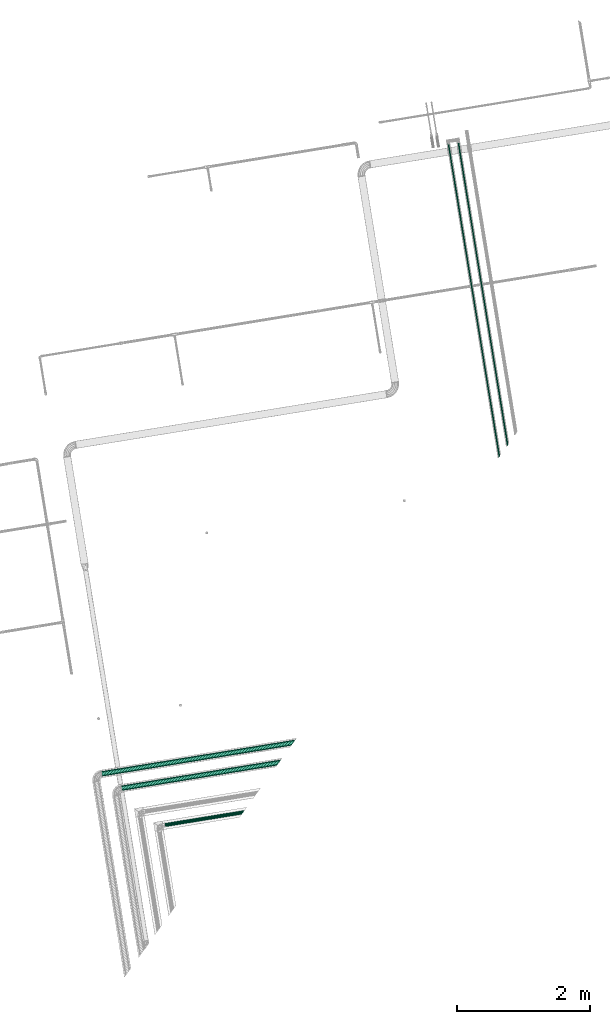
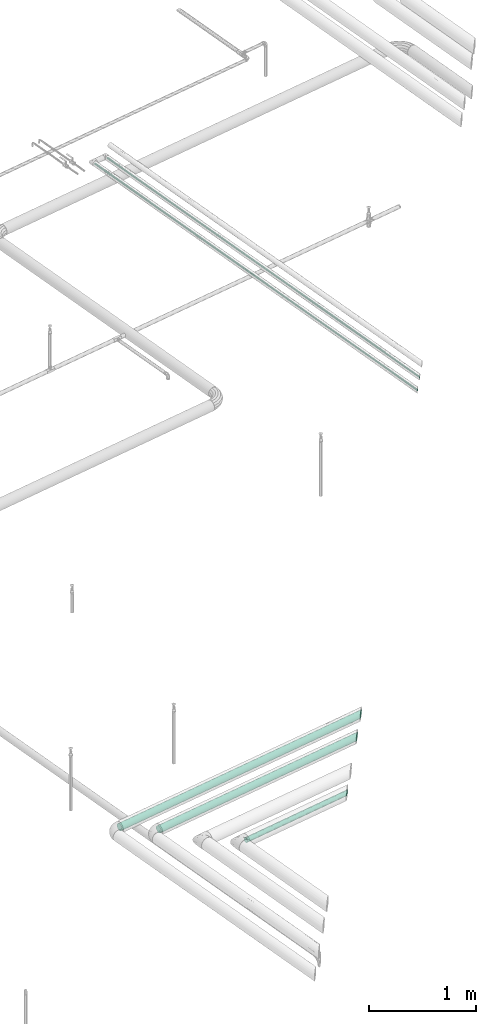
# One storey, part 42 of 46: 5 flow segments.
"""IFC2X3 building model written with IfcOpenShell, lengths in millimetres."""

from ifc_helpers import new_model, entity, si_unit, converted_unit, derived_unit, direction, frame, origin, origin_with_axes, place, context, subcontext, project, spatial, faceted_brep, material, type_object, element, save


model = new_model("IFC2X3")

# Units and contexts
model_context = context("Model", 3, precision=0.01, world=origin(), true_north=direction((6.12323399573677e-17, 1.0)))
plan_context = context("Plan", 3, precision=1e-05, world=origin_with_axes())
body_context = subcontext(model_context, "Body", "Model", "MODEL_VIEW")
ifc_project = project(units=[converted_unit("PLANEANGLEUNIT", "DEGREE", entity("IfcPositiveLengthMeasure", 0.0174532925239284), si_unit("PLANEANGLEUNIT", "RADIAN"), dimensions=[0, 0, 0, 0, 0, 0, 0]), si_unit("AREAUNIT", "SQUARE_METRE"), si_unit("LENGTHUNIT", "METRE", prefix="MILLI"), si_unit("MASSUNIT", "GRAM", prefix="KILO"), si_unit("POWERUNIT", "WATT"), si_unit("PRESSUREUNIT", "PASCAL", prefix="KILO"), si_unit("FORCEUNIT", "NEWTON", prefix="KILO"), si_unit("ELECTRICVOLTAGEUNIT", "VOLT"), si_unit("ELECTRICCURRENTUNIT", "AMPERE"), si_unit("THERMODYNAMICTEMPERATUREUNIT", "DEGREE_CELSIUS"), si_unit("TIMEUNIT", "SECOND"), si_unit("VOLUMEUNIT", "CUBIC_METRE"), derived_unit("LINEARVELOCITYUNIT", [(si_unit("LENGTHUNIT", "METRE"), 1), (si_unit("TIMEUNIT", "SECOND"), -1)]), derived_unit("VOLUMETRICFLOWRATEUNIT", [(si_unit("VOLUMEUNIT", "CUBIC_METRE"), 1), (si_unit("TIMEUNIT", "SECOND"), -1)]), derived_unit("THERMALTRANSMITTANCEUNIT", [(si_unit("POWERUNIT", "WATT"), 1), (si_unit("THERMODYNAMICTEMPERATUREUNIT", "KELVIN"), -1), (si_unit("AREAUNIT", "SQUARE_METRE"), -1)]), derived_unit("SOUNDPRESSUREUNIT", [(si_unit("PRESSUREUNIT", "PASCAL"), 1)])], contexts=[model_context, plan_context])

# Site, building, storey
site_placement = place(None, frame((-3.09682673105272e-06, 1.93776733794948e-05, 0.0), z_axis=(0.0, 0.0, 1.0), x_axis=(-0.160806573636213, 0.986985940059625, 0.0)))
site = spatial("IfcSite", under=ifc_project, at=site_placement, Name="Default", CompositionType="ELEMENT")
building_placement = place(site_placement, frame((0.0, 0.0, 0.0), z_axis=(0.0, 0.0, 1.0), x_axis=(1.0, -2.77555756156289e-17, 0.0)))
building = spatial("IfcBuilding", under=site, at=building_placement, Name="Bygning (endres i Project Information)", CompositionType="ELEMENT")
storey_placement = place(building_placement, frame((0.0, 0.0, 51360.0000000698), z_axis=(0.0, 0.0, 1.0), x_axis=(1.0, -2.77555756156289e-17, 0.0)))
storey = spatial("IfcBuildingStorey", under=building, at=storey_placement, Name="H01-Nivå D+0,36", CompositionType="ELEMENT", Elevation=51360.0000000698)

# Flow segments
ifc_material_1 = material(Name="3320.001")
pipe_segment_type_1 = type_object("IfcPipeSegmentType", Name="Pipe Types:Stålrør sveist og gjenget", PredefinedType="NOTDEFINED", material=ifc_material_1)
flow_segment_1_placement = place(storey_placement, frame((0.0, 0.0, 0.0), z_axis=(0.0, 0.0, 1.0), x_axis=(1.0, -2.77555756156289e-17, 0.0)))
element("IfcFlowSegment", 1, at=flow_segment_1_placement, inside=storey, type_object=pipe_segment_type_1, Name="Pipe Types:Stålrør sveist og gjenget", ObjectType="Pipe Types:Stålrør sveist og gjenget", context=body_context, shape_type="Brep", body=[
    faceted_brep([(999741.41764223, -349532.209046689, 3439.99999999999), (999740.839577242, -349531.630981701, 3446.60731303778), (999740.839577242, -347103.899155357, 3446.60731303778), (999741.41764223, -347103.899155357, 3439.99999999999), (999740.839577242, -349531.630981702, 3433.3926869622), (999740.839577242, -347103.899155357, 3433.3926869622), (999739.122946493, -349529.914350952, 3426.98613378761), (999739.122946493, -347103.899155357, 3426.98613378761), (999736.319908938, -349527.111313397, 3420.97500035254), (999736.319908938, -347103.899155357, 3420.97500035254), (999732.515633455, -349523.307037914, 3415.54193190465), (999732.515633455, -347103.899155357, 3415.54193190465), (999727.82571103, -349518.617115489, 3410.85200947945), (999727.82571103, -347103.899155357, 3410.85200947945), (999722.392642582, -349513.184047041, 3407.04773399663), (999722.392642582, -347103.899155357, 3407.04773399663), (999716.381509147, -349507.172913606, 3404.24469644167), (999716.381509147, -347103.899155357, 3404.24469644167), (999709.974955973, -349500.766360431, 3402.52806569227), (999709.974955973, -347103.899155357, 3402.52806569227), (999703.367642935, -349494.159047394, 3401.95000070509), (999703.367642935, -347103.899155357, 3401.95000070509), (999696.760329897, -349487.551734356, 3402.52806569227), (999696.760329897, -347103.899155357, 3402.52806569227), (999690.353776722, -349481.145181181, 3404.24469644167), (999690.353776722, -347103.899155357, 3404.24469644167), (999684.342643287, -349475.134047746, 3407.04773399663), (999684.342643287, -347103.899155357, 3407.04773399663), (999678.909574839, -349469.700979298, 3410.85200947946), (999678.909574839, -347103.899155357, 3410.85200947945), (999674.219652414, -349465.011056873, 3415.54193190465), (999674.219652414, -347103.899155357, 3415.54193190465), (999670.415376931, -349461.20678139, 3420.97500035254), (999670.415376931, -347103.899155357, 3420.97500035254), (999667.612339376, -349458.403743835, 3426.98613378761), (999667.612339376, -347103.899155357, 3426.98613378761), (999665.895708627, -349456.687113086, 3433.3926869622), (999665.895708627, -347103.899155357, 3433.3926869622), (999665.31764364, -349456.109048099, 3439.99999999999), (999665.31764364, -347103.899155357, 3439.99999999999), (999665.895708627, -349456.687113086, 3446.60731303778), (999665.895708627, -347103.899155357, 3446.60731303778), (999667.612339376, -349458.403743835, 3453.01386621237), (999667.612339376, -347103.899155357, 3453.01386621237), (999670.415376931, -349461.20678139, 3459.02499964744), (999670.415376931, -347103.899155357, 3459.02499964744), (999674.219652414, -349465.011056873, 3464.45806809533), (999674.219652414, -347103.899155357, 3464.45806809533), (999678.909574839, -349469.700979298, 3469.14799052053), (999678.909574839, -347103.899155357, 3469.14799052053), (999684.342643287, -349475.134047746, 3472.95226600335), (999684.342643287, -347103.899155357, 3472.95226600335), (999690.353776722, -349481.145181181, 3475.75530355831), (999690.353776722, -347103.899155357, 3475.75530355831), (999696.760329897, -349487.551734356, 3477.47193430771), (999696.760329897, -347103.899155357, 3477.47193430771), (999703.367642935, -349494.159047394, 3478.04999929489), (999703.367642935, -347103.899155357, 3478.04999929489), (999709.974955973, -349500.766360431, 3477.47193430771), (999709.974955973, -347103.899155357, 3477.47193430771), (999716.381509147, -349507.172913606, 3475.75530355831), (999716.381509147, -347103.899155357, 3475.75530355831), (999722.392642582, -349513.184047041, 3472.95226600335), (999722.392642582, -347103.899155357, 3472.95226600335), (999727.82571103, -349518.617115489, 3469.14799052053), (999727.82571103, -347103.899155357, 3469.14799052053), (999732.515633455, -349523.307037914, 3464.45806809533), (999732.515633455, -347103.899155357, 3464.45806809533), (999736.319908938, -349527.111313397, 3459.02499964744), (999736.319908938, -347103.899155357, 3459.02499964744), (999739.122946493, -349529.914350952, 3453.01386621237), (999739.122946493, -347103.899155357, 3453.01386621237)], [[[0, 1, 2, 3]], [[4, 0, 3, 5]], [[6, 4, 5, 7]], [[8, 6, 7, 9]], [[10, 8, 9, 11]], [[12, 10, 11, 13]], [[14, 12, 13, 15]], [[16, 14, 15, 17]], [[18, 16, 17, 19]], [[20, 18, 19, 21]], [[22, 20, 21, 23]], [[24, 22, 23, 25]], [[26, 24, 25, 27]], [[28, 26, 27, 29]], [[30, 28, 29, 31]], [[32, 30, 31, 33]], [[34, 32, 33, 35]], [[36, 34, 35, 37]], [[38, 36, 37, 39]], [[40, 38, 39, 41]], [[42, 40, 41, 43]], [[44, 42, 43, 45]], [[46, 44, 45, 47]], [[48, 46, 47, 49]], [[50, 48, 49, 51]], [[52, 50, 51, 53]], [[54, 52, 53, 55]], [[56, 54, 55, 57]], [[58, 56, 57, 59]], [[60, 58, 59, 61]], [[62, 60, 61, 63]], [[64, 62, 63, 65]], [[66, 64, 65, 67]], [[68, 66, 67, 69]], [[70, 68, 69, 71]], [[1, 70, 71, 2]], [[3, 2, 71, 69, 67, 65, 63, 61, 59, 57, 55, 53, 51, 49, 47, 45, 43, 41, 39, 37, 35, 33, 31, 29, 27, 25, 23, 21, 19, 17, 15, 13, 11, 9, 7, 5]], [[4, 6, 8, 10, 12, 14, 16, 18, 20, 22, 24, 26, 28, 30, 32, 34, 36, 38, 40, 42, 44, 46, 48, 50, 52, 54, 56, 58, 60, 62, 64, 66, 68, 70, 1, 0]]], orient=[[False], [False], [False], [False], [False], [False], [False], [False], [False], [False], [False], [False], [False], [False], [False], [False], [False], [False], [False], [False], [False], [False], [False], [False], [False], [False], [False], [False], [False], [False], [False], [False], [False], [False], [False], [False], [False], [False]]),
])
flow_segment_2_placement = place(storey_placement, frame((0.0, 0.0, 0.0), z_axis=(0.0, 0.0, 1.0), x_axis=(1.0, -2.77555756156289e-17, 0.0)))
element("IfcFlowSegment", 2, at=flow_segment_2_placement, inside=storey, type_object=pipe_segment_type_1, Name="Pipe Types:Stålrør sveist og gjenget", ObjectType="Pipe Types:Stålrør sveist og gjenget", context=body_context, shape_type="Brep", body=[
    faceted_brep([(1000001.41764223, -349792.209046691, 3439.99999999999), (1000000.83957725, -349791.630981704, 3446.60731303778), (1000000.83957725, -346843.899155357, 3446.60731303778), (1000001.41764223, -346843.899155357, 3439.99999999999), (1000000.83957725, -349791.630981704, 3433.3926869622), (1000000.83957725, -346843.899155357, 3433.3926869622), (999999.122946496, -349789.914350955, 3426.98613378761), (999999.122946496, -346843.899155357, 3426.98613378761), (999996.319908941, -349787.1113134, 3420.97500035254), (999996.319908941, -346843.899155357, 3420.97500035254), (999992.515633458, -349783.307037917, 3415.54193190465), (999992.515633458, -346843.899155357, 3415.54193190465), (999987.825711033, -349778.617115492, 3410.85200947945), (999987.825711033, -346843.899155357, 3410.85200947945), (999982.392642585, -349773.184047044, 3407.04773399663), (999982.392642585, -346843.899155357, 3407.04773399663), (999976.38150915, -349767.172913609, 3404.24469644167), (999976.38150915, -346843.899155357, 3404.24469644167), (999969.974955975, -349760.766360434, 3402.52806569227), (999969.974955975, -346843.899155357, 3402.52806569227), (999963.367642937, -349754.159047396, 3401.95000070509), (999963.367642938, -346843.899155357, 3401.95000070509), (999956.7603299, -349747.551734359, 3402.52806569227), (999956.7603299, -346843.899155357, 3402.52806569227), (999950.353776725, -349741.145181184, 3404.24469644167), (999950.353776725, -346843.899155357, 3404.24469644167), (999944.34264329, -349735.134047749, 3407.04773399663), (999944.34264329, -346843.899155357, 3407.04773399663), (999938.909574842, -349729.700979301, 3410.85200947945), (999938.909574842, -346843.899155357, 3410.85200947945), (999934.219652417, -349725.011056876, 3415.54193190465), (999934.219652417, -346843.899155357, 3415.54193190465), (999930.415376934, -349721.206781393, 3420.97500035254), (999930.415376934, -346843.899155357, 3420.97500035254), (999927.612339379, -349718.403743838, 3426.98613378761), (999927.612339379, -346843.899155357, 3426.98613378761), (999925.89570863, -349716.687113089, 3433.3926869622), (999925.89570863, -346843.899155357, 3433.3926869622), (999925.317643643, -349716.109048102, 3439.99999999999), (999925.317643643, -346843.899155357, 3439.99999999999), (999925.89570863, -349716.687113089, 3446.60731303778), (999925.89570863, -346843.899155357, 3446.60731303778), (999927.612339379, -349718.403743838, 3453.01386621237), (999927.612339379, -346843.899155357, 3453.01386621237), (999930.415376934, -349721.206781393, 3459.02499964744), (999930.415376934, -346843.899155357, 3459.02499964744), (999934.219652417, -349725.011056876, 3464.45806809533), (999934.219652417, -346843.899155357, 3464.45806809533), (999938.909574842, -349729.700979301, 3469.14799052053), (999938.909574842, -346843.899155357, 3469.14799052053), (999944.34264329, -349735.134047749, 3472.95226600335), (999944.34264329, -346843.899155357, 3472.95226600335), (999950.353776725, -349741.145181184, 3475.75530355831), (999950.353776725, -346843.899155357, 3475.75530355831), (999956.7603299, -349747.551734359, 3477.47193430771), (999956.7603299, -346843.899155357, 3477.47193430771), (999963.367642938, -349754.159047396, 3478.04999929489), (999963.367642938, -346843.899155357, 3478.04999929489), (999969.974955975, -349760.766360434, 3477.47193430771), (999969.974955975, -346843.899155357, 3477.47193430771), (999976.38150915, -349767.172913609, 3475.75530355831), (999976.38150915, -346843.899155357, 3475.75530355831), (999982.392642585, -349773.184047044, 3472.95226600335), (999982.392642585, -346843.899155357, 3472.95226600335), (999987.825711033, -349778.617115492, 3469.14799052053), (999987.825711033, -346843.899155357, 3469.14799052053), (999992.515633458, -349783.307037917, 3464.45806809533), (999992.515633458, -346843.899155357, 3464.45806809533), (999996.319908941, -349787.1113134, 3459.02499964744), (999996.319908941, -346843.899155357, 3459.02499964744), (999999.122946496, -349789.914350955, 3453.01386621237), (999999.122946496, -346843.899155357, 3453.01386621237)], [[[0, 1, 2, 3]], [[4, 0, 3, 5]], [[6, 4, 5, 7]], [[8, 6, 7, 9]], [[10, 8, 9, 11]], [[12, 10, 11, 13]], [[14, 12, 13, 15]], [[16, 14, 15, 17]], [[18, 16, 17, 19]], [[20, 18, 19, 21]], [[22, 20, 21, 23]], [[24, 22, 23, 25]], [[26, 24, 25, 27]], [[28, 26, 27, 29]], [[30, 28, 29, 31]], [[32, 30, 31, 33]], [[34, 32, 33, 35]], [[36, 34, 35, 37]], [[38, 36, 37, 39]], [[40, 38, 39, 41]], [[42, 40, 41, 43]], [[44, 42, 43, 45]], [[46, 44, 45, 47]], [[48, 46, 47, 49]], [[50, 48, 49, 51]], [[52, 50, 51, 53]], [[54, 52, 53, 55]], [[56, 54, 55, 57]], [[58, 56, 57, 59]], [[60, 58, 59, 61]], [[62, 60, 61, 63]], [[64, 62, 63, 65]], [[66, 64, 65, 67]], [[68, 66, 67, 69]], [[70, 68, 69, 71]], [[1, 70, 71, 2]], [[3, 2, 71, 69, 67, 65, 63, 61, 59, 57, 55, 53, 51, 49, 47, 45, 43, 41, 39, 37, 35, 33, 31, 29, 27, 25, 23, 21, 19, 17, 15, 13, 11, 9, 7, 5]], [[4, 6, 8, 10, 12, 14, 16, 18, 20, 22, 24, 26, 28, 30, 32, 34, 36, 38, 40, 42, 44, 46, 48, 50, 52, 54, 56, 58, 60, 62, 64, 66, 68, 70, 1, 0]]], orient=[[False], [False], [False], [False], [False], [False], [False], [False], [False], [False], [False], [False], [False], [False], [False], [False], [False], [False], [False], [False], [False], [False], [False], [False], [False], [False], [False], [False], [False], [False], [False], [False], [False], [False], [False], [False], [False], [False]]),
])
ifc_material_2 = material(Name="3200.003 Tur")
pipe_segment_type_2 = type_object("IfcPipeSegmentType", Name="Pipe Types:Pressfittingssystem MM", PredefinedType="NOTDEFINED", material=ifc_material_2)
flow_segment_3_placement = place(storey_placement, frame((0.0, 0.0, 0.0), z_axis=(0.0, 0.0, 1.0), x_axis=(1.0, -2.77555756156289e-17, 0.0)))
element("IfcFlowSegment", 3, at=flow_segment_3_placement, inside=storey, type_object=pipe_segment_type_2, Name="Pipe Types:Pressfittingssystem MM", ObjectType="Pipe Types:Pressfittingssystem MM", context=body_context, shape_type="Brep", body=[
    faceted_brep([(1003842.7887348, -353633.58013926, 3450.0), (1003842.90267665, -353633.694081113, 3448.69763866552), (1008458.09958779, -353633.694081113, 3448.69763866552), (1008458.09958779, -353633.58013926, 3450.0), (1003842.90267665, -353633.694081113, 3451.30236133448), (1008458.09958779, -353633.694081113, 3451.30236133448), (1003843.24104015, -353634.032444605, 3452.56515107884), (1008458.09958779, -353634.032444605, 3452.56515107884), (1003843.79354427, -353634.584948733, 3453.7500000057), (1008458.09958779, -353634.584948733, 3453.7500000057), (1003844.54340148, -353635.33480594, 3454.82090707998), (1008458.09958779, -353635.33480594, 3454.82090707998), (1003845.46782773, -353636.259232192, 3455.74533333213), (1008458.09958779, -353636.259232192, 3455.74533333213), (1003846.53873481, -353637.330139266, 3456.49519053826), (1008458.09958779, -353637.330139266, 3456.49519053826), (1003847.72358373, -353638.514988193, 3457.04769466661), (1008458.09958779, -353638.514988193, 3457.04769466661), (1003848.98637348, -353639.777777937, 3457.38605815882), (1008458.09958779, -353639.777777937, 3457.38605815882), (1003850.28873481, -353641.080139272, 3457.5000000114), (1008458.09958779, -353641.080139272, 3457.5000000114), (1003851.59109615, -353642.382500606, 3457.38605815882), (1008458.09958779, -353642.382500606, 3457.38605815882), (1003852.85388589, -353643.645290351, 3457.04769466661), (1008458.09958779, -353643.645290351, 3457.04769466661), (1003854.03873482, -353644.830139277, 3456.49519053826), (1008458.09958779, -353644.830139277, 3456.49519053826), (1003855.10964189, -353645.901046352, 3455.74533333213), (1008458.09958779, -353645.901046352, 3455.74533333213), (1003856.03406814, -353646.825472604, 3454.82090707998), (1008458.09958779, -353646.825472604, 3454.82090707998), (1003856.78392535, -353647.57532981, 3453.7500000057), (1008458.09958779, -353647.57532981, 3453.7500000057), (1003857.33642948, -353648.127833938, 3452.56515107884), (1008458.09958779, -353648.127833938, 3452.56515107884), (1003857.67479297, -353648.466197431, 3451.30236133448), (1008458.09958779, -353648.466197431, 3451.30236133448), (1003857.78873482, -353648.580139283, 3450.0), (1008458.09958779, -353648.580139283, 3450.0), (1003857.67479297, -353648.466197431, 3448.69763866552), (1008458.09958779, -353648.466197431, 3448.69763866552), (1003857.33642948, -353648.127833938, 3447.43484892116), (1008458.09958779, -353648.127833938, 3447.43484892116), (1003856.78392535, -353647.57532981, 3446.2499999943), (1008458.09958779, -353647.57532981, 3446.2499999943), (1003856.03406814, -353646.825472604, 3445.17909292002), (1008458.09958779, -353646.825472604, 3445.17909292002), (1003855.10964189, -353645.901046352, 3444.25466666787), (1008458.09958779, -353645.901046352, 3444.25466666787), (1003854.03873482, -353644.830139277, 3443.50480946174), (1008458.09958779, -353644.830139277, 3443.50480946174), (1003852.85388589, -353643.645290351, 3442.95230533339), (1008458.09958779, -353643.645290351, 3442.95230533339), (1003851.59109615, -353642.382500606, 3442.61394184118), (1008458.09958779, -353642.382500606, 3442.61394184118), (1003850.28873481, -353641.080139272, 3442.4999999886), (1008458.09958779, -353641.080139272, 3442.4999999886), (1003848.98637348, -353639.777777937, 3442.61394184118), (1008458.09958779, -353639.777777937, 3442.61394184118), (1003847.72358373, -353638.514988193, 3442.95230533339), (1008458.09958779, -353638.514988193, 3442.95230533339), (1003846.53873481, -353637.330139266, 3443.50480946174), (1008458.09958779, -353637.330139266, 3443.50480946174), (1003845.46782773, -353636.259232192, 3444.25466666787), (1008458.09958779, -353636.259232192, 3444.25466666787), (1003844.54340148, -353635.33480594, 3445.17909292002), (1008458.09958779, -353635.33480594, 3445.17909292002), (1003843.79354427, -353634.584948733, 3446.2499999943), (1008458.09958779, -353634.584948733, 3446.2499999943), (1003843.24104015, -353634.032444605, 3447.43484892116), (1008458.09958779, -353634.032444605, 3447.43484892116)], [[[0, 1, 2, 3]], [[4, 0, 3, 5]], [[6, 4, 5, 7]], [[8, 6, 7, 9]], [[10, 8, 9, 11]], [[12, 10, 11, 13]], [[14, 12, 13, 15]], [[16, 14, 15, 17]], [[18, 16, 17, 19]], [[20, 18, 19, 21]], [[22, 20, 21, 23]], [[24, 22, 23, 25]], [[26, 24, 25, 27]], [[28, 26, 27, 29]], [[30, 28, 29, 31]], [[32, 30, 31, 33]], [[34, 32, 33, 35]], [[36, 34, 35, 37]], [[38, 36, 37, 39]], [[40, 38, 39, 41]], [[42, 40, 41, 43]], [[44, 42, 43, 45]], [[46, 44, 45, 47]], [[48, 46, 47, 49]], [[50, 48, 49, 51]], [[52, 50, 51, 53]], [[54, 52, 53, 55]], [[56, 54, 55, 57]], [[58, 56, 57, 59]], [[60, 58, 59, 61]], [[62, 60, 61, 63]], [[64, 62, 63, 65]], [[66, 64, 65, 67]], [[68, 66, 67, 69]], [[70, 68, 69, 71]], [[1, 70, 71, 2]], [[3, 2, 71, 69, 67, 65, 63, 61, 59, 57, 55, 53, 51, 49, 47, 45, 43, 41, 39, 37, 35, 33, 31, 29, 27, 25, 23, 21, 19, 17, 15, 13, 11, 9, 7, 5]], [[4, 6, 8, 10, 12, 14, 16, 18, 20, 22, 24, 26, 28, 30, 32, 34, 36, 38, 40, 42, 44, 46, 48, 50, 52, 54, 56, 58, 60, 62, 64, 66, 68, 70, 1, 0]]], orient=[[False], [False], [False], [False], [False], [False], [False], [False], [False], [False], [False], [False], [False], [False], [False], [False], [False], [False], [False], [False], [False], [False], [False], [False], [False], [False], [False], [False], [False], [False], [False], [False], [False], [False], [False], [False], [False], [False]]),
])
flow_segment_4_placement = place(storey_placement, frame((0.0, 0.0, 0.0), z_axis=(0.0, 0.0, 1.0), x_axis=(1.0, -2.77555756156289e-17, 0.0)))
element("IfcFlowSegment", 4, at=flow_segment_4_placement, inside=storey, type_object=pipe_segment_type_2, Name="Pipe Types:Pressfittingssystem MM", ObjectType="Pipe Types:Pressfittingssystem MM", context=body_context, shape_type="Brep", body=[
    faceted_brep([(1003692.7887348, -353483.58013926, 3450.0), (1003692.90267665, -353483.694081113, 3448.69763866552), (1008458.09958779, -353483.694081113, 3448.69763866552), (1008458.09958779, -353483.58013926, 3450.0), (1003692.90267665, -353483.694081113, 3451.30236133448), (1008458.09958779, -353483.694081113, 3451.30236133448), (1003693.24104015, -353484.032444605, 3452.56515107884), (1008458.09958779, -353484.032444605, 3452.56515107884), (1003693.79354427, -353484.584948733, 3453.7500000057), (1008458.09958779, -353484.584948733, 3453.7500000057), (1003694.54340148, -353485.33480594, 3454.82090707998), (1008458.09958779, -353485.33480594, 3454.82090707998), (1003695.46782773, -353486.259232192, 3455.74533333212), (1008458.09958779, -353486.259232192, 3455.74533333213), (1003696.53873481, -353487.330139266, 3456.49519053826), (1008458.09958779, -353487.330139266, 3456.49519053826), (1003697.72358373, -353488.514988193, 3457.04769466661), (1008458.09958779, -353488.514988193, 3457.04769466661), (1003698.98637348, -353489.777777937, 3457.38605815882), (1008458.09958779, -353489.777777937, 3457.38605815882), (1003700.28873481, -353491.080139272, 3457.5000000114), (1008458.09958779, -353491.080139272, 3457.5000000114), (1003701.59109615, -353492.382500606, 3457.38605815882), (1008458.09958779, -353492.382500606, 3457.38605815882), (1003702.85388589, -353493.645290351, 3457.04769466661), (1008458.09958779, -353493.645290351, 3457.04769466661), (1003704.03873482, -353494.830139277, 3456.49519053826), (1008458.09958779, -353494.830139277, 3456.49519053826), (1003705.10964189, -353495.901046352, 3455.74533333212), (1008458.09958779, -353495.901046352, 3455.74533333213), (1003706.03406814, -353496.825472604, 3454.82090707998), (1008458.09958779, -353496.825472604, 3454.82090707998), (1003706.78392535, -353497.57532981, 3453.7500000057), (1008458.09958779, -353497.57532981, 3453.7500000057), (1003707.33642948, -353498.127833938, 3452.56515107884), (1008458.09958779, -353498.127833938, 3452.56515107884), (1003707.67479297, -353498.466197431, 3451.30236133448), (1008458.09958779, -353498.466197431, 3451.30236133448), (1003707.78873482, -353498.580139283, 3450.0), (1008458.09958779, -353498.580139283, 3450.0), (1003707.67479297, -353498.466197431, 3448.69763866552), (1008458.09958779, -353498.466197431, 3448.69763866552), (1003707.33642948, -353498.127833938, 3447.43484892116), (1008458.09958779, -353498.127833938, 3447.43484892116), (1003706.78392535, -353497.57532981, 3446.2499999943), (1008458.09958779, -353497.57532981, 3446.2499999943), (1003706.03406814, -353496.825472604, 3445.17909292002), (1008458.09958779, -353496.825472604, 3445.17909292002), (1003705.10964189, -353495.901046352, 3444.25466666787), (1008458.09958779, -353495.901046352, 3444.25466666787), (1003704.03873482, -353494.830139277, 3443.50480946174), (1008458.09958779, -353494.830139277, 3443.50480946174), (1003702.85388589, -353493.645290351, 3442.95230533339), (1008458.09958779, -353493.645290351, 3442.95230533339), (1003701.59109615, -353492.382500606, 3442.61394184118), (1008458.09958779, -353492.382500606, 3442.61394184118), (1003700.28873481, -353491.080139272, 3442.4999999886), (1008458.09958779, -353491.080139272, 3442.4999999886), (1003698.98637348, -353489.777777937, 3442.61394184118), (1008458.09958779, -353489.777777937, 3442.61394184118), (1003697.72358373, -353488.514988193, 3442.95230533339), (1008458.09958779, -353488.514988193, 3442.95230533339), (1003696.53873481, -353487.330139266, 3443.50480946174), (1008458.09958779, -353487.330139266, 3443.50480946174), (1003695.46782773, -353486.259232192, 3444.25466666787), (1008458.09958779, -353486.259232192, 3444.25466666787), (1003694.54340148, -353485.33480594, 3445.17909292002), (1008458.09958779, -353485.33480594, 3445.17909292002), (1003693.79354427, -353484.584948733, 3446.2499999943), (1008458.09958779, -353484.584948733, 3446.2499999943), (1003693.24104015, -353484.032444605, 3447.43484892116), (1008458.09958779, -353484.032444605, 3447.43484892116)], [[[0, 1, 2, 3]], [[4, 0, 3, 5]], [[6, 4, 5, 7]], [[8, 6, 7, 9]], [[10, 8, 9, 11]], [[12, 10, 11, 13]], [[14, 12, 13, 15]], [[16, 14, 15, 17]], [[18, 16, 17, 19]], [[20, 18, 19, 21]], [[22, 20, 21, 23]], [[24, 22, 23, 25]], [[26, 24, 25, 27]], [[28, 26, 27, 29]], [[30, 28, 29, 31]], [[32, 30, 31, 33]], [[34, 32, 33, 35]], [[36, 34, 35, 37]], [[38, 36, 37, 39]], [[40, 38, 39, 41]], [[42, 40, 41, 43]], [[44, 42, 43, 45]], [[46, 44, 45, 47]], [[48, 46, 47, 49]], [[50, 48, 49, 51]], [[52, 50, 51, 53]], [[54, 52, 53, 55]], [[56, 54, 55, 57]], [[58, 56, 57, 59]], [[60, 58, 59, 61]], [[62, 60, 61, 63]], [[64, 62, 63, 65]], [[66, 64, 65, 67]], [[68, 66, 67, 69]], [[70, 68, 69, 71]], [[1, 70, 71, 2]], [[3, 2, 71, 69, 67, 65, 63, 61, 59, 57, 55, 53, 51, 49, 47, 45, 43, 41, 39, 37, 35, 33, 31, 29, 27, 25, 23, 21, 19, 17, 15, 13, 11, 9, 7, 5]], [[4, 6, 8, 10, 12, 14, 16, 18, 20, 22, 24, 26, 28, 30, 32, 34, 36, 38, 40, 42, 44, 46, 48, 50, 52, 54, 56, 58, 60, 62, 64, 66, 68, 70, 1, 0]]], orient=[[False], [False], [False], [False], [False], [False], [False], [False], [False], [False], [False], [False], [False], [False], [False], [False], [False], [False], [False], [False], [False], [False], [False], [False], [False], [False], [False], [False], [False], [False], [False], [False], [False], [False], [False], [False], [False], [False]]),
])
flow_segment_5_placement = place(storey_placement, frame((0.0, 0.0, 0.0), z_axis=(0.0, 0.0, 1.0), x_axis=(1.0, -2.77555756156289e-17, 0.0)))
element("IfcFlowSegment", 5, at=flow_segment_5_placement, inside=storey, type_object=pipe_segment_type_2, Name="Pipe Types:Pressfittingssystem MM", ObjectType="Pipe Types:Pressfittingssystem MM", context=body_context, shape_type="Brep", body=[
    faceted_brep([(999026.436842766, -348817.228247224, 3440.0), (999026.847033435, -348817.638437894, 3435.31149919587), (999026.847033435, -347622.431189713, 3435.31149919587), (999026.436842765, -347622.431189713, 3440.0), (999026.847033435, -348817.638437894, 3444.68850080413), (999026.847033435, -347622.431189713, 3444.68850080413), (999028.065142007, -348818.856546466, 3449.23454388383), (999028.065142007, -347622.431189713, 3449.23454388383), (999030.054156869, -348820.845561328, 3453.50000002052), (999030.054156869, -347622.431189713, 3453.50000002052), (999032.753642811, -348823.54504727, 3457.35526548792), (999032.753642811, -347622.431189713, 3457.35526548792), (999036.081577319, -348826.872981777, 3460.68319999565), (999036.081577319, -347622.431189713, 3460.68319999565), (999039.936842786, -348830.728247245, 3463.38268593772), (999039.936842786, -347622.431189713, 3463.38268593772), (999044.202298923, -348834.993703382, 3465.37170079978), (999044.202298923, -347622.431189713, 3465.37170079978), (999048.748342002, -348839.539746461, 3466.58980937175), (999048.748342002, -347622.431189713, 3466.58980937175), (999053.436842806, -348844.228247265, 3467.00000004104), (999053.436842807, -347622.431189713, 3467.00000004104), (999058.125343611, -348848.91674807, 3466.58980937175), (999058.125343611, -347622.431189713, 3466.58980937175), (999062.67138669, -348853.462791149, 3465.37170079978), (999062.67138669, -347622.431189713, 3465.37170079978), (999066.936842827, -348857.728247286, 3463.38268593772), (999066.936842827, -347622.431189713, 3463.38268593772), (999070.792108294, -348861.583512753, 3460.68319999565), (999070.792108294, -347622.431189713, 3460.68319999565), (999074.120042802, -348864.911447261, 3457.35526548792), (999074.120042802, -347622.431189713, 3457.35526548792), (999076.819528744, -348867.610933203, 3453.50000002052), (999076.819528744, -347622.431189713, 3453.50000002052), (999078.808543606, -348869.599948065, 3449.23454388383), (999078.808543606, -347622.431189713, 3449.23454388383), (999080.026652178, -348870.818056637, 3444.68850080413), (999080.026652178, -347622.431189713, 3444.68850080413), (999080.436842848, -348871.228247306, 3440.0), (999080.436842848, -347622.431189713, 3440.0), (999080.026652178, -348870.818056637, 3435.31149919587), (999080.026652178, -347622.431189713, 3435.31149919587), (999078.808543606, -348869.599948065, 3430.76545611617), (999078.808543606, -347622.431189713, 3430.76545611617), (999076.819528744, -348867.610933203, 3426.49999997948), (999076.819528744, -347622.431189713, 3426.49999997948), (999074.120042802, -348864.911447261, 3422.64473451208), (999074.120042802, -347622.431189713, 3422.64473451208), (999070.792108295, -348861.583512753, 3419.31680000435), (999070.792108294, -347622.431189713, 3419.31680000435), (999066.936842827, -348857.728247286, 3416.61731406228), (999066.936842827, -347622.431189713, 3416.61731406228), (999062.67138669, -348853.462791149, 3414.62829920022), (999062.67138669, -347622.431189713, 3414.62829920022), (999058.125343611, -348848.916748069, 3413.41019062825), (999058.125343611, -347622.431189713, 3413.41019062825), (999053.436842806, -348844.228247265, 3412.99999995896), (999053.436842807, -347622.431189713, 3412.99999995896), (999048.748342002, -348839.539746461, 3413.41019062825), (999048.748342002, -347622.431189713, 3413.41019062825), (999044.202298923, -348834.993703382, 3414.62829920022), (999044.202298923, -347622.431189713, 3414.62829920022), (999039.936842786, -348830.728247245, 3416.61731406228), (999039.936842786, -347622.431189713, 3416.61731406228), (999036.081577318, -348826.872981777, 3419.31680000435), (999036.081577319, -347622.431189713, 3419.31680000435), (999032.753642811, -348823.54504727, 3422.64473451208), (999032.753642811, -347622.431189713, 3422.64473451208), (999030.054156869, -348820.845561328, 3426.49999997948), (999030.054156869, -347622.431189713, 3426.49999997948), (999028.065142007, -348818.856546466, 3430.76545611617), (999028.065142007, -347622.431189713, 3430.76545611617)], [[[0, 1, 2, 3]], [[4, 0, 3, 5]], [[6, 4, 5, 7]], [[8, 6, 7, 9]], [[10, 8, 9, 11]], [[12, 10, 11, 13]], [[14, 12, 13, 15]], [[16, 14, 15, 17]], [[18, 16, 17, 19]], [[20, 18, 19, 21]], [[22, 20, 21, 23]], [[24, 22, 23, 25]], [[26, 24, 25, 27]], [[28, 26, 27, 29]], [[30, 28, 29, 31]], [[32, 30, 31, 33]], [[34, 32, 33, 35]], [[36, 34, 35, 37]], [[38, 36, 37, 39]], [[40, 38, 39, 41]], [[42, 40, 41, 43]], [[44, 42, 43, 45]], [[46, 44, 45, 47]], [[48, 46, 47, 49]], [[50, 48, 49, 51]], [[52, 50, 51, 53]], [[54, 52, 53, 55]], [[56, 54, 55, 57]], [[58, 56, 57, 59]], [[60, 58, 59, 61]], [[62, 60, 61, 63]], [[64, 62, 63, 65]], [[66, 64, 65, 67]], [[68, 66, 67, 69]], [[70, 68, 69, 71]], [[1, 70, 71, 2]], [[3, 2, 71, 69, 67, 65, 63, 61, 59, 57, 55, 53, 51, 49, 47, 45, 43, 41, 39, 37, 35, 33, 31, 29, 27, 25, 23, 21, 19, 17, 15, 13, 11, 9, 7, 5]], [[4, 6, 8, 10, 12, 14, 16, 18, 20, 22, 24, 26, 28, 30, 32, 34, 36, 38, 40, 42, 44, 46, 48, 50, 52, 54, 56, 58, 60, 62, 64, 66, 68, 70, 1, 0]]], orient=[[False], [False], [False], [False], [False], [False], [False], [False], [False], [False], [False], [False], [False], [False], [False], [False], [False], [False], [False], [False], [False], [False], [False], [False], [False], [False], [False], [False], [False], [False], [False], [False], [False], [False], [False], [False], [False], [False]]),
])

save(model, "model.ifc")
